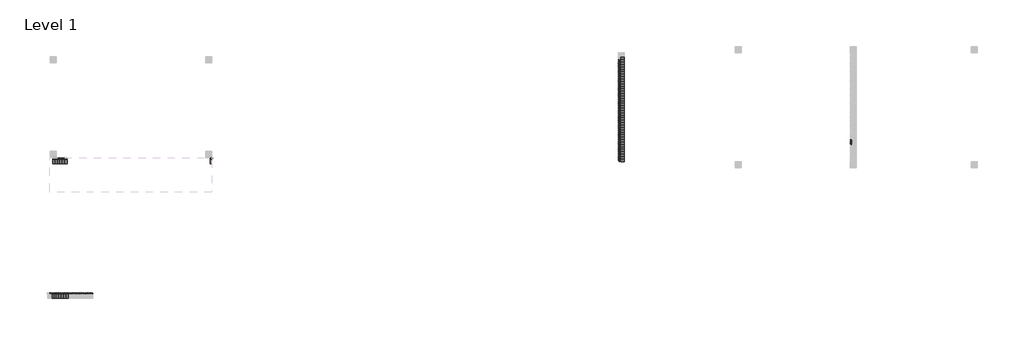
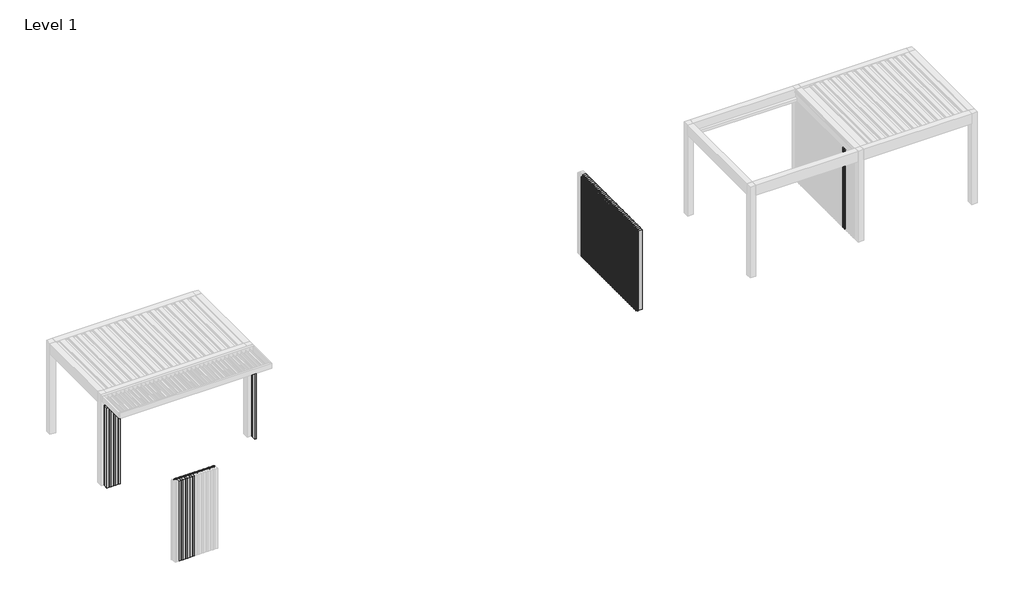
# One storey, part 3 of 80: 69 members, 57 plates.
"""IFC4 building model written with IfcOpenShell, lengths in millimetres."""

from ifc_helpers import new_model, si_unit, origin, origin_with_axes, place, context, project, spatial, polyline, outline, extrude, transform, mapped, element, save
from components import rectangular_mullion_2d27342c, rectangular_mullion_0795b381, rectangular_mullion_26476c5b, empty_system_panel_empty_ddf532ef, empty_system_panel_empty_0af53769, empty_system_panel_empty_b4a5b46b

model = new_model("IFC4")

# Units and contexts
model_context = context("Model", 3, world=origin())
ifc_project = project(units=[si_unit("LENGTHUNIT", "METRE", prefix="MILLI")], contexts=[model_context])

# Site, building, storey
site = spatial("IfcSite", under=ifc_project)
building = spatial("IfcBuilding", under=site)
storey = spatial("IfcBuildingStorey", under=building, Name="Level 1", Elevation=0.0)

# Members
placement = place(None, origin())
rectangular_mullion_shape = rectangular_mullion_2d27342c(model_context)
element("IfcMember", 1, ObjectType="Rectangular Mullion : Renson_Linarte_LA-E25-01 Zone B", at=placement, inside=storey, context=model_context, shape_type="MappedRepresentation", body=[
    mapped(rectangular_mullion_shape, transform((405935.5749429, -18477.8406315, 0.0), x_axis=(1.0, 0.0, 0.0), y_axis=(0.0, -1.0, 0.0), z_axis=(0.0, 0.0, -1.0))),
])
element("IfcMember", 2, ObjectType="Rectangular Mullion : Renson_Linarte_LA-E25-01 Zone B", at=placement, inside=storey, context=model_context, shape_type="MappedRepresentation", body=[
    mapped(rectangular_mullion_shape, transform((402335.5749429, -18477.8406315, 0.0), x_axis=(1.0, 0.0, 0.0), y_axis=(0.0, -1.0, 0.0), z_axis=(0.0, 0.0, -1.0))),
])
element("IfcMember", 3, ObjectType="Rectangular Mullion : Renson_Linarte_LA-E25-01 Zone B", at=placement, inside=storey, context=model_context, shape_type="MappedRepresentation", body=[
    mapped(rectangular_mullion_shape, transform((402275.5749429, -18477.8406315, 0.0), x_axis=(1.0, 0.0, 0.0), y_axis=(0.0, -1.0, 0.0), z_axis=(0.0, 0.0, -1.0))),
])
element("IfcMember", 4, ObjectType="Rectangular Mullion : Renson_Linarte_LA-E25-01 Zone B", at=placement, inside=storey, context=model_context, shape_type="MappedRepresentation", body=[
    mapped(rectangular_mullion_shape, transform((402215.5749429, -18477.8406315, 0.0), x_axis=(1.0, 0.0, 0.0), y_axis=(0.0, -1.0, 0.0), z_axis=(0.0, 0.0, -1.0))),
])
element("IfcMember", 5, ObjectType="Rectangular Mullion : Renson_Linarte_LA-E25-01 Zone B", at=placement, inside=storey, context=model_context, shape_type="MappedRepresentation", body=[
    mapped(rectangular_mullion_shape, transform((402155.5749429, -18477.8406315, 0.0), x_axis=(1.0, 0.0, 0.0), y_axis=(0.0, -1.0, 0.0), z_axis=(0.0, 0.0, -1.0))),
])
element("IfcMember", 6, ObjectType="Rectangular Mullion : Renson_Linarte_LA-E25-01 Zone B", at=placement, inside=storey, context=model_context, shape_type="MappedRepresentation", body=[
    mapped(rectangular_mullion_shape, transform((402095.5749429, -18477.8406315, 0.0), x_axis=(1.0, 0.0, 0.0), y_axis=(0.0, -1.0, 0.0), z_axis=(0.0, 0.0, -1.0))),
])
element("IfcMember", 7, ObjectType="Rectangular Mullion : Renson_Linarte_LA-E25-01 Zone B", at=placement, inside=storey, context=model_context, shape_type="MappedRepresentation", body=[
    mapped(rectangular_mullion_shape, transform((402035.5749429, -18477.8406315, 0.0), x_axis=(1.0, 0.0, 0.0), y_axis=(0.0, -1.0, 0.0), z_axis=(0.0, 0.0, -1.0))),
])
rectangular_mullion_2_shape = rectangular_mullion_0795b381(model_context)
element("IfcMember", 8, ObjectType="Rectangular Mullion : Renson_Linarte_LA-E25-01 Zone B", at=placement, inside=storey, context=model_context, shape_type="MappedRepresentation", body=[
    mapped(rectangular_mullion_2_shape, transform((403029.0900204, -21816.7045876, 0.0), x_axis=(-1.0, 0.0, 0.0), y_axis=(0.0, 1.0, 0.0), z_axis=(0.0, 0.0, -1.0))),
])
element("IfcMember", 9, ObjectType="Rectangular Mullion : Renson_Linarte_LA-E25-01 Zone B", at=placement, inside=storey, context=model_context, shape_type="MappedRepresentation", body=[
    mapped(rectangular_mullion_2_shape, transform((402969.0900204, -21816.7045876, 0.0), x_axis=(-1.0, 0.0, 0.0), y_axis=(0.0, 1.0, 0.0), z_axis=(0.0, 0.0, -1.0))),
])
element("IfcMember", 10, ObjectType="Rectangular Mullion : Renson_Linarte_LA-E25-01 Zone B", at=placement, inside=storey, context=model_context, shape_type="MappedRepresentation", body=[
    mapped(rectangular_mullion_2_shape, transform((402909.0900204, -21816.7045876, 0.0), x_axis=(-1.0, 0.0, 0.0), y_axis=(0.0, 1.0, 0.0), z_axis=(0.0, 0.0, -1.0))),
])
element("IfcMember", 11, ObjectType="Rectangular Mullion : Renson_Linarte_LA-E25-01 Zone B", at=placement, inside=storey, context=model_context, shape_type="MappedRepresentation", body=[
    mapped(rectangular_mullion_2_shape, transform((402849.0900204, -21816.7045876, 0.0), x_axis=(-1.0, 0.0, 0.0), y_axis=(0.0, 1.0, 0.0), z_axis=(0.0, 0.0, -1.0))),
])
element("IfcMember", 12, ObjectType="Rectangular Mullion : Renson_Linarte_LA-E25-01 Zone B", at=placement, inside=storey, context=model_context, shape_type="MappedRepresentation", body=[
    mapped(rectangular_mullion_2_shape, transform((402789.0900204, -21816.7045876, 0.0), x_axis=(-1.0, 0.0, 0.0), y_axis=(0.0, 1.0, 0.0), z_axis=(0.0, 0.0, -1.0))),
])
element("IfcMember", 13, ObjectType="Rectangular Mullion : Renson_Linarte_LA-E25-01 Zone B", at=placement, inside=storey, context=model_context, shape_type="MappedRepresentation", body=[
    mapped(rectangular_mullion_2_shape, transform((402729.0900204, -21816.7045876, 0.0), x_axis=(-1.0, 0.0, 0.0), y_axis=(0.0, 1.0, 0.0), z_axis=(0.0, 0.0, -1.0))),
])
element("IfcMember", 14, ObjectType="Rectangular Mullion : Renson_Linarte_LA-E25-01 Zone B", at=placement, inside=storey, context=model_context, shape_type="MappedRepresentation", body=[
    mapped(rectangular_mullion_2_shape, transform((402669.0900204, -21816.7045876, 0.0), x_axis=(-1.0, 0.0, 0.0), y_axis=(0.0, 1.0, 0.0), z_axis=(0.0, 0.0, -1.0))),
])
element("IfcMember", 15, ObjectType="Rectangular Mullion : Renson_Linarte_LA-E25-01 Zone B", at=placement, inside=storey, context=model_context, shape_type="MappedRepresentation", body=[
    mapped(rectangular_mullion_2_shape, transform((402609.0900204, -21816.7045876, 0.0), x_axis=(-1.0, 0.0, 0.0), y_axis=(0.0, 1.0, 0.0), z_axis=(0.0, 0.0, -1.0))),
])
element("IfcMember", 16, ObjectType="Rectangular Mullion : Renson_Linarte_LA-E25-01 Zone B", at=placement, inside=storey, context=model_context, shape_type="MappedRepresentation", body=[
    mapped(rectangular_mullion_2_shape, transform((402549.0900204, -21816.7045876, 0.0), x_axis=(-1.0, 0.0, 0.0), y_axis=(0.0, 1.0, 0.0), z_axis=(0.0, 0.0, -1.0))),
])
element("IfcMember", 17, ObjectType="Rectangular Mullion : Renson_Linarte_LA-E25-01 Zone B", at=placement, inside=storey, context=model_context, shape_type="MappedRepresentation", body=[
    mapped(rectangular_mullion_2_shape, transform((402489.0900204, -21816.7045876, 0.0), x_axis=(-1.0, 0.0, 0.0), y_axis=(0.0, 1.0, 0.0), z_axis=(0.0, 0.0, -1.0))),
])
element("IfcMember", 18, ObjectType="Rectangular Mullion : Renson_Linarte_LA-E25-01 Zone B", at=placement, inside=storey, context=model_context, shape_type="MappedRepresentation", body=[
    mapped(rectangular_mullion_2_shape, transform((402429.0900204, -21816.7045876, 0.0), x_axis=(-1.0, 0.0, 0.0), y_axis=(0.0, 1.0, 0.0), z_axis=(0.0, 0.0, -1.0))),
])
element("IfcMember", 19, ObjectType="Rectangular Mullion : Renson_Linarte_LA-E25-01 Zone B", at=placement, inside=storey, context=model_context, shape_type="MappedRepresentation", body=[
    mapped(rectangular_mullion_2_shape, transform((402369.0900204, -21816.7045876, 0.0), x_axis=(-1.0, 0.0, 0.0), y_axis=(0.0, 1.0, 0.0), z_axis=(0.0, 0.0, -1.0))),
])
element("IfcMember", 20, ObjectType="Rectangular Mullion : Renson_Linarte_LA-E25-01 Zone B", at=placement, inside=storey, context=model_context, shape_type="MappedRepresentation", body=[
    mapped(rectangular_mullion_2_shape, transform((402309.0900204, -21816.7045876, 0.0), x_axis=(-1.0, 0.0, 0.0), y_axis=(0.0, 1.0, 0.0), z_axis=(0.0, 0.0, -1.0))),
])
element("IfcMember", 21, ObjectType="Rectangular Mullion : Renson_Linarte_LA-E25-01 Zone B", at=placement, inside=storey, context=model_context, shape_type="MappedRepresentation", body=[
    mapped(rectangular_mullion_2_shape, transform((402249.0900204, -21816.7045876, 0.0), x_axis=(-1.0, 0.0, 0.0), y_axis=(0.0, 1.0, 0.0), z_axis=(0.0, 0.0, -1.0))),
])
element("IfcMember", 22, ObjectType="Rectangular Mullion : Renson_Linarte_LA-E25-01 Zone B", at=placement, inside=storey, context=model_context, shape_type="MappedRepresentation", body=[
    mapped(rectangular_mullion_2_shape, transform((402189.0900204, -21816.7045876, 0.0), x_axis=(-1.0, 0.0, 0.0), y_axis=(0.0, 1.0, 0.0), z_axis=(0.0, 0.0, -1.0))),
])
element("IfcMember", 23, ObjectType="Rectangular Mullion : Renson_Linarte_LA-E25-01 Zone B", at=placement, inside=storey, context=model_context, shape_type="MappedRepresentation", body=[
    mapped(rectangular_mullion_2_shape, transform((402129.0900204, -21816.7045876, 0.0), x_axis=(-1.0, 0.0, 0.0), y_axis=(0.0, 1.0, 0.0), z_axis=(0.0, 0.0, -1.0))),
])
element("IfcMember", 24, ObjectType="Rectangular Mullion : Renson_Linarte_LA-E25-01 Zone B", at=placement, inside=storey, context=model_context, shape_type="MappedRepresentation", body=[
    mapped(rectangular_mullion_2_shape, transform((402069.0900204, -21816.7045876, 0.0), x_axis=(-1.0, 0.0, 0.0), y_axis=(0.0, 1.0, 0.0), z_axis=(0.0, 0.0, -1.0))),
])
element("IfcMember", 25, ObjectType="Rectangular Mullion : Renson_Linarte_LA-E25-01 Zone B", at=placement, inside=storey, context=model_context, shape_type="MappedRepresentation", body=[
    mapped(rectangular_mullion_2_shape, transform((402009.0900204, -21816.7045876, 0.0), x_axis=(-1.0, 0.0, 0.0), y_axis=(0.0, 1.0, 0.0), z_axis=(0.0, 0.0, -1.0))),
])
rectangular_mullion_3_shape = rectangular_mullion_26476c5b(model_context)
element("IfcMember", 26, ObjectType="Rectangular Mullion : Renson_Linarte_LA-E25-01", at=placement, inside=storey, context=model_context, shape_type="MappedRepresentation", body=[
    mapped(rectangular_mullion_3_shape, transform((416146.3354185, -16477.8406318, 0.0), x_axis=(0.0, -1.0, 0.0), y_axis=(-1.0, 0.0, 0.0), z_axis=(0.0, 0.0, -1.0))),
])
element("IfcMember", 27, ObjectType="Rectangular Mullion : Renson_Linarte_LA-E25-01", at=placement, inside=storey, context=model_context, shape_type="MappedRepresentation", body=[
    mapped(rectangular_mullion_3_shape, transform((416146.3354185, -16537.8406318, 0.0), x_axis=(0.0, -1.0, 0.0), y_axis=(-1.0, 0.0, 0.0), z_axis=(0.0, 0.0, -1.0))),
])
element("IfcMember", 28, ObjectType="Rectangular Mullion : Renson_Linarte_LA-E25-01", at=placement, inside=storey, context=model_context, shape_type="MappedRepresentation", body=[
    mapped(rectangular_mullion_3_shape, transform((416146.3354185, -16597.8406318, 0.0), x_axis=(0.0, -1.0, 0.0), y_axis=(-1.0, 0.0, 0.0), z_axis=(0.0, 0.0, -1.0))),
])
element("IfcMember", 29, ObjectType="Rectangular Mullion : Renson_Linarte_LA-E25-01", at=placement, inside=storey, context=model_context, shape_type="MappedRepresentation", body=[
    mapped(rectangular_mullion_3_shape, transform((416146.3354185, -16657.8406318, 0.0), x_axis=(0.0, -1.0, 0.0), y_axis=(-1.0, 0.0, 0.0), z_axis=(0.0, 0.0, -1.0))),
])
element("IfcMember", 30, ObjectType="Rectangular Mullion : Renson_Linarte_LA-E25-01", at=placement, inside=storey, context=model_context, shape_type="MappedRepresentation", body=[
    mapped(rectangular_mullion_3_shape, transform((416146.3354185, -16717.8406318, 0.0), x_axis=(0.0, -1.0, 0.0), y_axis=(-1.0, 0.0, 0.0), z_axis=(0.0, 0.0, -1.0))),
])
element("IfcMember", 31, ObjectType="Rectangular Mullion : Renson_Linarte_LA-E25-01", at=placement, inside=storey, context=model_context, shape_type="MappedRepresentation", body=[
    mapped(rectangular_mullion_3_shape, transform((416146.3354185, -16777.8406318, 0.0), x_axis=(0.0, -1.0, 0.0), y_axis=(-1.0, 0.0, 0.0), z_axis=(0.0, 0.0, -1.0))),
])
element("IfcMember", 32, ObjectType="Rectangular Mullion : Renson_Linarte_LA-E25-01", at=placement, inside=storey, context=model_context, shape_type="MappedRepresentation", body=[
    mapped(rectangular_mullion_3_shape, transform((416146.3354185, -16837.8406318, 0.0), x_axis=(0.0, -1.0, 0.0), y_axis=(-1.0, 0.0, 0.0), z_axis=(0.0, 0.0, -1.0))),
])
element("IfcMember", 33, ObjectType="Rectangular Mullion : Renson_Linarte_LA-E25-01", at=placement, inside=storey, context=model_context, shape_type="MappedRepresentation", body=[
    mapped(rectangular_mullion_3_shape, transform((416146.3354185, -16897.8406318, 0.0), x_axis=(0.0, -1.0, 0.0), y_axis=(-1.0, 0.0, 0.0), z_axis=(0.0, 0.0, -1.0))),
])
element("IfcMember", 34, ObjectType="Rectangular Mullion : Renson_Linarte_LA-E25-01", at=placement, inside=storey, context=model_context, shape_type="MappedRepresentation", body=[
    mapped(rectangular_mullion_3_shape, transform((416146.3354185, -16957.8406318, 0.0), x_axis=(0.0, -1.0, 0.0), y_axis=(-1.0, 0.0, 0.0), z_axis=(0.0, 0.0, -1.0))),
])
element("IfcMember", 35, ObjectType="Rectangular Mullion : Renson_Linarte_LA-E25-01", at=placement, inside=storey, context=model_context, shape_type="MappedRepresentation", body=[
    mapped(rectangular_mullion_3_shape, transform((416146.3354185, -17017.8406318, 0.0), x_axis=(0.0, -1.0, 0.0), y_axis=(-1.0, 0.0, 0.0), z_axis=(0.0, 0.0, -1.0))),
])
element("IfcMember", 36, ObjectType="Rectangular Mullion : Renson_Linarte_LA-E25-01", at=placement, inside=storey, context=model_context, shape_type="MappedRepresentation", body=[
    mapped(rectangular_mullion_3_shape, transform((416146.3354185, -17077.8406318, 0.0), x_axis=(0.0, -1.0, 0.0), y_axis=(-1.0, 0.0, 0.0), z_axis=(0.0, 0.0, -1.0))),
])
element("IfcMember", 37, ObjectType="Rectangular Mullion : Renson_Linarte_LA-E25-01", at=placement, inside=storey, context=model_context, shape_type="MappedRepresentation", body=[
    mapped(rectangular_mullion_3_shape, transform((416146.3354185, -17137.8406318, 0.0), x_axis=(0.0, -1.0, 0.0), y_axis=(-1.0, 0.0, 0.0), z_axis=(0.0, 0.0, -1.0))),
])
element("IfcMember", 38, ObjectType="Rectangular Mullion : Renson_Linarte_LA-E25-01", at=placement, inside=storey, context=model_context, shape_type="MappedRepresentation", body=[
    mapped(rectangular_mullion_3_shape, transform((416146.3354185, -17197.8406318, 0.0), x_axis=(0.0, -1.0, 0.0), y_axis=(-1.0, 0.0, 0.0), z_axis=(0.0, 0.0, -1.0))),
])
element("IfcMember", 39, ObjectType="Rectangular Mullion : Renson_Linarte_LA-E25-01", at=placement, inside=storey, context=model_context, shape_type="MappedRepresentation", body=[
    mapped(rectangular_mullion_3_shape, transform((416146.3354185, -17257.8406318, 0.0), x_axis=(0.0, -1.0, 0.0), y_axis=(-1.0, 0.0, 0.0), z_axis=(0.0, 0.0, -1.0))),
])
element("IfcMember", 40, ObjectType="Rectangular Mullion : Renson_Linarte_LA-E25-01", at=placement, inside=storey, context=model_context, shape_type="MappedRepresentation", body=[
    mapped(rectangular_mullion_3_shape, transform((416146.3354185, -17317.8406318, 0.0), x_axis=(0.0, -1.0, 0.0), y_axis=(-1.0, 0.0, 0.0), z_axis=(0.0, 0.0, -1.0))),
])
element("IfcMember", 41, ObjectType="Rectangular Mullion : Renson_Linarte_LA-E25-01", at=placement, inside=storey, context=model_context, shape_type="MappedRepresentation", body=[
    mapped(rectangular_mullion_3_shape, transform((416146.3354185, -17377.8406318, 0.0), x_axis=(0.0, -1.0, 0.0), y_axis=(-1.0, 0.0, 0.0), z_axis=(0.0, 0.0, -1.0))),
])
element("IfcMember", 42, ObjectType="Rectangular Mullion : Renson_Linarte_LA-E25-01", at=placement, inside=storey, context=model_context, shape_type="MappedRepresentation", body=[
    mapped(rectangular_mullion_3_shape, transform((416146.3354185, -17437.8406318, 0.0), x_axis=(0.0, -1.0, 0.0), y_axis=(-1.0, 0.0, 0.0), z_axis=(0.0, 0.0, -1.0))),
])
element("IfcMember", 43, ObjectType="Rectangular Mullion : Renson_Linarte_LA-E25-01", at=placement, inside=storey, context=model_context, shape_type="MappedRepresentation", body=[
    mapped(rectangular_mullion_3_shape, transform((416146.3354185, -17497.8406318, 0.0), x_axis=(0.0, -1.0, 0.0), y_axis=(-1.0, 0.0, 0.0), z_axis=(0.0, 0.0, -1.0))),
])
element("IfcMember", 44, ObjectType="Rectangular Mullion : Renson_Linarte_LA-E25-01", at=placement, inside=storey, context=model_context, shape_type="MappedRepresentation", body=[
    mapped(rectangular_mullion_3_shape, transform((416146.3354185, -17557.8406318, 0.0), x_axis=(0.0, -1.0, 0.0), y_axis=(-1.0, 0.0, 0.0), z_axis=(0.0, 0.0, -1.0))),
])
element("IfcMember", 45, ObjectType="Rectangular Mullion : Renson_Linarte_LA-E25-01", at=placement, inside=storey, context=model_context, shape_type="MappedRepresentation", body=[
    mapped(rectangular_mullion_3_shape, transform((416146.3354185, -17617.8406318, 0.0), x_axis=(0.0, -1.0, 0.0), y_axis=(-1.0, 0.0, 0.0), z_axis=(0.0, 0.0, -1.0))),
])
element("IfcMember", 46, ObjectType="Rectangular Mullion : Renson_Linarte_LA-E25-01", at=placement, inside=storey, context=model_context, shape_type="MappedRepresentation", body=[
    mapped(rectangular_mullion_3_shape, transform((416146.3354185, -17677.8406318, 0.0), x_axis=(0.0, -1.0, 0.0), y_axis=(-1.0, 0.0, 0.0), z_axis=(0.0, 0.0, -1.0))),
])
element("IfcMember", 47, ObjectType="Rectangular Mullion : Renson_Linarte_LA-E25-01", at=placement, inside=storey, context=model_context, shape_type="MappedRepresentation", body=[
    mapped(rectangular_mullion_3_shape, transform((416146.3354185, -17737.8406318, 0.0), x_axis=(0.0, -1.0, 0.0), y_axis=(-1.0, 0.0, 0.0), z_axis=(0.0, 0.0, -1.0))),
])
element("IfcMember", 48, ObjectType="Rectangular Mullion : Renson_Linarte_LA-E25-01", at=placement, inside=storey, context=model_context, shape_type="MappedRepresentation", body=[
    mapped(rectangular_mullion_3_shape, transform((416146.3354185, -17797.8406318, 0.0), x_axis=(0.0, -1.0, 0.0), y_axis=(-1.0, 0.0, 0.0), z_axis=(0.0, 0.0, -1.0))),
])
element("IfcMember", 49, ObjectType="Rectangular Mullion : Renson_Linarte_LA-E25-01", at=placement, inside=storey, context=model_context, shape_type="MappedRepresentation", body=[
    mapped(rectangular_mullion_3_shape, transform((416146.3354185, -17857.8406318, 0.0), x_axis=(0.0, -1.0, 0.0), y_axis=(-1.0, 0.0, 0.0), z_axis=(0.0, 0.0, -1.0))),
])
element("IfcMember", 50, ObjectType="Rectangular Mullion : Renson_Linarte_LA-E25-01", at=placement, inside=storey, context=model_context, shape_type="MappedRepresentation", body=[
    mapped(rectangular_mullion_3_shape, transform((416146.3354185, -17917.8406318, 0.0), x_axis=(0.0, -1.0, 0.0), y_axis=(-1.0, 0.0, 0.0), z_axis=(0.0, 0.0, -1.0))),
])
element("IfcMember", 51, ObjectType="Rectangular Mullion : Renson_Linarte_LA-E25-01", at=placement, inside=storey, context=model_context, shape_type="MappedRepresentation", body=[
    mapped(rectangular_mullion_3_shape, transform((416146.3354185, -17977.8406318, 0.0), x_axis=(0.0, -1.0, 0.0), y_axis=(-1.0, 0.0, 0.0), z_axis=(0.0, 0.0, -1.0))),
])
element("IfcMember", 52, ObjectType="Rectangular Mullion : Renson_Linarte_LA-E25-01", at=placement, inside=storey, context=model_context, shape_type="MappedRepresentation", body=[
    mapped(rectangular_mullion_3_shape, transform((416146.3354185, -18037.8406318, 0.0), x_axis=(0.0, -1.0, 0.0), y_axis=(-1.0, 0.0, 0.0), z_axis=(0.0, 0.0, -1.0))),
])
element("IfcMember", 53, ObjectType="Rectangular Mullion : Renson_Linarte_LA-E25-01", at=placement, inside=storey, context=model_context, shape_type="MappedRepresentation", body=[
    mapped(rectangular_mullion_3_shape, transform((416146.3354185, -18097.8406318, 0.0), x_axis=(0.0, -1.0, 0.0), y_axis=(-1.0, 0.0, 0.0), z_axis=(0.0, 0.0, -1.0))),
])
element("IfcMember", 54, ObjectType="Rectangular Mullion : Renson_Linarte_LA-E25-01", at=placement, inside=storey, context=model_context, shape_type="MappedRepresentation", body=[
    mapped(rectangular_mullion_3_shape, transform((416146.3354185, -18157.8406318, 0.0), x_axis=(0.0, -1.0, 0.0), y_axis=(-1.0, 0.0, 0.0), z_axis=(0.0, 0.0, -1.0))),
])
element("IfcMember", 55, ObjectType="Rectangular Mullion : Renson_Linarte_LA-E25-01", at=placement, inside=storey, context=model_context, shape_type="MappedRepresentation", body=[
    mapped(rectangular_mullion_3_shape, transform((416146.3354185, -18217.8406318, 0.0), x_axis=(0.0, -1.0, 0.0), y_axis=(-1.0, 0.0, 0.0), z_axis=(0.0, 0.0, -1.0))),
])
element("IfcMember", 56, ObjectType="Rectangular Mullion : Renson_Linarte_LA-E25-01", at=placement, inside=storey, context=model_context, shape_type="MappedRepresentation", body=[
    mapped(rectangular_mullion_3_shape, transform((416146.3354185, -18277.8406318, 0.0), x_axis=(0.0, -1.0, 0.0), y_axis=(-1.0, 0.0, 0.0), z_axis=(0.0, 0.0, -1.0))),
])
element("IfcMember", 57, ObjectType="Rectangular Mullion : Renson_Linarte_LA-E25-01", at=placement, inside=storey, context=model_context, shape_type="MappedRepresentation", body=[
    mapped(rectangular_mullion_3_shape, transform((416146.3354185, -18337.8406318, 0.0), x_axis=(0.0, -1.0, 0.0), y_axis=(-1.0, 0.0, 0.0), z_axis=(0.0, 0.0, -1.0))),
])
element("IfcMember", 58, ObjectType="Rectangular Mullion : Renson_Linarte_LA-E25-01", at=placement, inside=storey, context=model_context, shape_type="MappedRepresentation", body=[
    mapped(rectangular_mullion_3_shape, transform((416146.3354185, -18397.8406318, 0.0), x_axis=(0.0, -1.0, 0.0), y_axis=(-1.0, 0.0, 0.0), z_axis=(0.0, 0.0, -1.0))),
])
element("IfcMember", 59, ObjectType="Rectangular Mullion : Renson_Linarte_LA-E25-01", at=placement, inside=storey, context=model_context, shape_type="MappedRepresentation", body=[
    mapped(rectangular_mullion_3_shape, transform((416146.3354185, -18457.8406318, 0.0), x_axis=(0.0, -1.0, 0.0), y_axis=(-1.0, 0.0, 0.0), z_axis=(0.0, 0.0, -1.0))),
])
element("IfcMember", 60, ObjectType="Rectangular Mullion : Renson_Linarte_LA-E25-01", at=placement, inside=storey, context=model_context, shape_type="MappedRepresentation", body=[
    mapped(rectangular_mullion_3_shape, transform((416146.3354185, -18517.8406318, 0.0), x_axis=(0.0, -1.0, 0.0), y_axis=(-1.0, 0.0, 0.0), z_axis=(0.0, 0.0, -1.0))),
])
element("IfcMember", 61, ObjectType="Rectangular Mullion : Renson_Linarte_LA-E25-01", at=placement, inside=storey, context=model_context, shape_type="MappedRepresentation", body=[
    mapped(rectangular_mullion_3_shape, transform((421900.5749426, -18037.8406318, 0.0), x_axis=(0.0, -1.0, 0.0), y_axis=(-1.0, 0.0, 0.0), z_axis=(0.0, 0.0, -1.0))),
])
element("IfcMember", 62, ObjectType="Rectangular Mullion : Renson_Linarte_LA-E25-01", at=placement, inside=storey, context=model_context, shape_type="MappedRepresentation", body=[
    mapped(rectangular_mullion_3_shape, transform((421900.5749426, -18097.8406318, 0.0), x_axis=(0.0, -1.0, 0.0), y_axis=(-1.0, 0.0, 0.0), z_axis=(0.0, 0.0, -1.0))),
])
element("IfcMember", 63, ObjectType="Rectangular Mullion : Renson_Linarte_LA-E25-01", at=placement, inside=storey, context=model_context, shape_type="MappedRepresentation", body=[
    mapped(rectangular_mullion_3_shape, transform((416146.3354185, -16417.8406318, 0.0), x_axis=(0.0, -1.0, 0.0), y_axis=(-1.0, 0.0, 0.0), z_axis=(0.0, 0.0, -1.0))),
])
element("IfcMember", 64, ObjectType="Rectangular Mullion : Renson_Linarte_LA-E25-01", at=placement, inside=storey, context=model_context, shape_type="MappedRepresentation", body=[
    mapped(rectangular_mullion_3_shape, transform((416146.3354185, -16357.8406318, 0.0), x_axis=(0.0, -1.0, 0.0), y_axis=(-1.0, 0.0, 0.0), z_axis=(0.0, 0.0, -1.0))),
])
element("IfcMember", 65, ObjectType="Rectangular Mullion : Renson_Linarte_LA-E25-01", at=placement, inside=storey, context=model_context, shape_type="MappedRepresentation", body=[
    mapped(rectangular_mullion_3_shape, transform((416146.3354185, -16297.8406318, 0.0), x_axis=(0.0, -1.0, 0.0), y_axis=(-1.0, 0.0, 0.0), z_axis=(0.0, 0.0, -1.0))),
])
element("IfcMember", 66, ObjectType="Rectangular Mullion : Renson_Linarte_LA-E25-01", at=placement, inside=storey, context=model_context, shape_type="MappedRepresentation", body=[
    mapped(rectangular_mullion_3_shape, transform((416146.3354185, -16237.8406318, 0.0), x_axis=(0.0, -1.0, 0.0), y_axis=(-1.0, 0.0, 0.0), z_axis=(0.0, 0.0, -1.0))),
])
element("IfcMember", 67, ObjectType="Rectangular Mullion : Renson_Linarte_LA-E25-01", at=placement, inside=storey, context=model_context, shape_type="MappedRepresentation", body=[
    mapped(rectangular_mullion_3_shape, transform((416146.3354185, -16177.8406318, 0.0), x_axis=(0.0, -1.0, 0.0), y_axis=(-1.0, 0.0, 0.0), z_axis=(0.0, 0.0, -1.0))),
])
element("IfcMember", 68, ObjectType="Rectangular Mullion : Renson_Linarte_LA-E25-01", at=placement, inside=storey, context=model_context, shape_type="MappedRepresentation", body=[
    mapped(rectangular_mullion_3_shape, transform((416146.3354185, -16117.8406318, 0.0), x_axis=(0.0, -1.0, 0.0), y_axis=(-1.0, 0.0, 0.0), z_axis=(0.0, 0.0, -1.0))),
])
element("IfcMember", 69, ObjectType="Rectangular Mullion : Renson_Linarte_LA-E25-01", at=placement, inside=storey, context=model_context, shape_type="MappedRepresentation", body=[
    mapped(rectangular_mullion_3_shape, transform((416146.3354185, -16057.8406318, 0.0), x_axis=(0.0, -1.0, 0.0), y_axis=(-1.0, 0.0, 0.0), z_axis=(0.0, 0.0, -1.0))),
])

# Plates
element("IfcPlate", 70, ObjectType="Base - 88mm", at=placement, inside=storey, context=model_context, shape_type="SweptSolid", body=[
    extrude(outline(polyline([(416102.3354185, -18577.8406315), (416102.3354185, -18517.8406318), (416190.3354185, -18517.8406318), (416190.3354185, -18577.8406315), (416102.3354185, -18577.8406315)])), origin_with_axes(), (0.0, 0.0, 1.0), 2225.0),
])
element("IfcPlate", 71, ObjectType="Base - 88mm", at=placement, inside=storey, context=model_context, shape_type="SweptSolid", body=[
    extrude(outline(polyline([(416102.3354185, -18517.8406318), (416102.3354185, -18457.8406318), (416190.3354185, -18457.8406318), (416190.3354185, -18517.8406318), (416102.3354185, -18517.8406318)])), origin_with_axes(), (0.0, 0.0, 1.0), 2225.0),
])
element("IfcPlate", 72, ObjectType="Base - 88mm", at=placement, inside=storey, context=model_context, shape_type="SweptSolid", body=[
    extrude(outline(polyline([(416102.3354185, -18457.8406318), (416102.3354185, -18397.8406318), (416190.3354185, -18397.8406318), (416190.3354185, -18457.8406318), (416102.3354185, -18457.8406318)])), origin_with_axes(), (0.0, 0.0, 1.0), 2225.0),
])
element("IfcPlate", 73, ObjectType="Base - 88mm", at=placement, inside=storey, context=model_context, shape_type="SweptSolid", body=[
    extrude(outline(polyline([(416102.3354185, -18397.8406318), (416102.3354185, -18337.8406318), (416190.3354185, -18337.8406318), (416190.3354185, -18397.8406318), (416102.3354185, -18397.8406318)])), origin_with_axes(), (0.0, 0.0, 1.0), 2225.0),
])
element("IfcPlate", 74, ObjectType="Base - 88mm", at=placement, inside=storey, context=model_context, shape_type="SweptSolid", body=[
    extrude(outline(polyline([(416102.3354185, -18337.8406318), (416102.3354185, -18277.8406318), (416190.3354185, -18277.8406318), (416190.3354185, -18337.8406318), (416102.3354185, -18337.8406318)])), origin_with_axes(), (0.0, 0.0, 1.0), 2225.0),
])
element("IfcPlate", 75, ObjectType="Base - 88mm", at=placement, inside=storey, context=model_context, shape_type="SweptSolid", body=[
    extrude(outline(polyline([(416102.3354185, -18277.8406318), (416102.3354185, -18217.8406318), (416190.3354185, -18217.8406318), (416190.3354185, -18277.8406318), (416102.3354185, -18277.8406318)])), origin_with_axes(), (0.0, 0.0, 1.0), 2225.0),
])
element("IfcPlate", 76, ObjectType="Base - 88mm", at=placement, inside=storey, context=model_context, shape_type="SweptSolid", body=[
    extrude(outline(polyline([(416102.3354185, -18217.8406318), (416102.3354185, -18157.8406318), (416190.3354185, -18157.8406318), (416190.3354185, -18217.8406318), (416102.3354185, -18217.8406318)])), origin_with_axes(), (0.0, 0.0, 1.0), 2225.0),
])
element("IfcPlate", 77, ObjectType="Base - 88mm", at=placement, inside=storey, context=model_context, shape_type="SweptSolid", body=[
    extrude(outline(polyline([(416102.3354185, -18157.8406318), (416102.3354185, -18097.8406318), (416190.3354185, -18097.8406318), (416190.3354185, -18157.8406318), (416102.3354185, -18157.8406318)])), origin_with_axes(), (0.0, 0.0, 1.0), 2225.0),
])
element("IfcPlate", 78, ObjectType="Base - 88mm", at=placement, inside=storey, context=model_context, shape_type="SweptSolid", body=[
    extrude(outline(polyline([(416102.3354185, -18097.8406318), (416102.3354185, -18037.8406318), (416190.3354185, -18037.8406318), (416190.3354185, -18097.8406318), (416102.3354185, -18097.8406318)])), origin_with_axes(), (0.0, 0.0, 1.0), 2225.0),
])
element("IfcPlate", 79, ObjectType="Base - 88mm", at=placement, inside=storey, context=model_context, shape_type="SweptSolid", body=[
    extrude(outline(polyline([(416102.3354185, -18037.8406318), (416102.3354185, -17977.8406318), (416190.3354185, -17977.8406318), (416190.3354185, -18037.8406318), (416102.3354185, -18037.8406318)])), origin_with_axes(), (0.0, 0.0, 1.0), 2225.0),
])
element("IfcPlate", 80, ObjectType="Base - 88mm", at=placement, inside=storey, context=model_context, shape_type="SweptSolid", body=[
    extrude(outline(polyline([(416102.3354185, -17977.8406318), (416102.3354185, -17917.8406318), (416190.3354185, -17917.8406318), (416190.3354185, -17977.8406318), (416102.3354185, -17977.8406318)])), origin_with_axes(), (0.0, 0.0, 1.0), 2225.0),
])
element("IfcPlate", 81, ObjectType="Base - 88mm", at=placement, inside=storey, context=model_context, shape_type="SweptSolid", body=[
    extrude(outline(polyline([(416102.3354185, -17917.8406318), (416102.3354185, -17857.8406318), (416190.3354185, -17857.8406318), (416190.3354185, -17917.8406318), (416102.3354185, -17917.8406318)])), origin_with_axes(), (0.0, 0.0, 1.0), 2225.0),
])
element("IfcPlate", 82, ObjectType="Base - 88mm", at=placement, inside=storey, context=model_context, shape_type="SweptSolid", body=[
    extrude(outline(polyline([(416102.3354185, -17857.8406318), (416102.3354185, -17797.8406318), (416190.3354185, -17797.8406318), (416190.3354185, -17857.8406318), (416102.3354185, -17857.8406318)])), origin_with_axes(), (0.0, 0.0, 1.0), 2225.0),
])
element("IfcPlate", 83, ObjectType="Base - 88mm", at=placement, inside=storey, context=model_context, shape_type="SweptSolid", body=[
    extrude(outline(polyline([(416102.3354185, -17797.8406318), (416102.3354185, -17737.8406318), (416190.3354185, -17737.8406318), (416190.3354185, -17797.8406318), (416102.3354185, -17797.8406318)])), origin_with_axes(), (0.0, 0.0, 1.0), 2225.0),
])
element("IfcPlate", 84, ObjectType="Base - 88mm", at=placement, inside=storey, context=model_context, shape_type="SweptSolid", body=[
    extrude(outline(polyline([(416102.3354185, -17737.8406318), (416102.3354185, -17677.8406318), (416190.3354185, -17677.8406318), (416190.3354185, -17737.8406318), (416102.3354185, -17737.8406318)])), origin_with_axes(), (0.0, 0.0, 1.0), 2225.0),
])
element("IfcPlate", 85, ObjectType="Base - 88mm", at=placement, inside=storey, context=model_context, shape_type="SweptSolid", body=[
    extrude(outline(polyline([(416102.3354185, -17677.8406318), (416102.3354185, -17617.8406318), (416190.3354185, -17617.8406318), (416190.3354185, -17677.8406318), (416102.3354185, -17677.8406318)])), origin_with_axes(), (0.0, 0.0, 1.0), 2225.0),
])
element("IfcPlate", 86, ObjectType="Base - 88mm", at=placement, inside=storey, context=model_context, shape_type="SweptSolid", body=[
    extrude(outline(polyline([(416102.3354185, -17617.8406318), (416102.3354185, -17557.8406318), (416190.3354185, -17557.8406318), (416190.3354185, -17617.8406318), (416102.3354185, -17617.8406318)])), origin_with_axes(), (0.0, 0.0, 1.0), 2225.0),
])
element("IfcPlate", 87, ObjectType="Base - 88mm", at=placement, inside=storey, context=model_context, shape_type="SweptSolid", body=[
    extrude(outline(polyline([(416102.3354185, -17557.8406318), (416102.3354185, -17497.8406318), (416190.3354185, -17497.8406318), (416190.3354185, -17557.8406318), (416102.3354185, -17557.8406318)])), origin_with_axes(), (0.0, 0.0, 1.0), 2225.0),
])
element("IfcPlate", 88, ObjectType="Base - 88mm", at=placement, inside=storey, context=model_context, shape_type="SweptSolid", body=[
    extrude(outline(polyline([(416102.3354185, -17497.8406318), (416102.3354185, -17437.8406318), (416190.3354185, -17437.8406318), (416190.3354185, -17497.8406318), (416102.3354185, -17497.8406318)])), origin_with_axes(), (0.0, 0.0, 1.0), 2225.0),
])
element("IfcPlate", 89, ObjectType="Base - 88mm", at=placement, inside=storey, context=model_context, shape_type="SweptSolid", body=[
    extrude(outline(polyline([(416102.3354185, -17437.8406318), (416102.3354185, -17377.8406318), (416190.3354185, -17377.8406318), (416190.3354185, -17437.8406318), (416102.3354185, -17437.8406318)])), origin_with_axes(), (0.0, 0.0, 1.0), 2225.0),
])
element("IfcPlate", 90, ObjectType="Base - 88mm", at=placement, inside=storey, context=model_context, shape_type="SweptSolid", body=[
    extrude(outline(polyline([(416102.3354185, -17377.8406318), (416102.3354185, -17317.8406318), (416190.3354185, -17317.8406318), (416190.3354185, -17377.8406318), (416102.3354185, -17377.8406318)])), origin_with_axes(), (0.0, 0.0, 1.0), 2225.0),
])
element("IfcPlate", 91, ObjectType="Base - 88mm", at=placement, inside=storey, context=model_context, shape_type="SweptSolid", body=[
    extrude(outline(polyline([(416102.3354185, -17317.8406318), (416102.3354185, -17257.8406318), (416190.3354185, -17257.8406318), (416190.3354185, -17317.8406318), (416102.3354185, -17317.8406318)])), origin_with_axes(), (0.0, 0.0, 1.0), 2225.0),
])
element("IfcPlate", 92, ObjectType="Base - 88mm", at=placement, inside=storey, context=model_context, shape_type="SweptSolid", body=[
    extrude(outline(polyline([(416102.3354185, -17257.8406318), (416102.3354185, -17197.8406318), (416190.3354185, -17197.8406318), (416190.3354185, -17257.8406318), (416102.3354185, -17257.8406318)])), origin_with_axes(), (0.0, 0.0, 1.0), 2225.0),
])
element("IfcPlate", 93, ObjectType="Base - 88mm", at=placement, inside=storey, context=model_context, shape_type="SweptSolid", body=[
    extrude(outline(polyline([(416102.3354185, -17197.8406318), (416102.3354185, -17137.8406318), (416190.3354185, -17137.8406318), (416190.3354185, -17197.8406318), (416102.3354185, -17197.8406318)])), origin_with_axes(), (0.0, 0.0, 1.0), 2225.0),
])
element("IfcPlate", 94, ObjectType="Base - 88mm", at=placement, inside=storey, context=model_context, shape_type="SweptSolid", body=[
    extrude(outline(polyline([(416102.3354185, -17137.8406318), (416102.3354185, -17077.8406318), (416190.3354185, -17077.8406318), (416190.3354185, -17137.8406318), (416102.3354185, -17137.8406318)])), origin_with_axes(), (0.0, 0.0, 1.0), 2225.0),
])
element("IfcPlate", 95, ObjectType="Base - 88mm", at=placement, inside=storey, context=model_context, shape_type="SweptSolid", body=[
    extrude(outline(polyline([(416102.3354185, -17077.8406318), (416102.3354185, -17017.8406318), (416190.3354185, -17017.8406318), (416190.3354185, -17077.8406318), (416102.3354185, -17077.8406318)])), origin_with_axes(), (0.0, 0.0, 1.0), 2225.0),
])
element("IfcPlate", 96, ObjectType="Base - 88mm", at=placement, inside=storey, context=model_context, shape_type="SweptSolid", body=[
    extrude(outline(polyline([(416102.3354185, -17017.8406318), (416102.3354185, -16957.8406318), (416190.3354185, -16957.8406318), (416190.3354185, -17017.8406318), (416102.3354185, -17017.8406318)])), origin_with_axes(), (0.0, 0.0, 1.0), 2225.0),
])
element("IfcPlate", 97, ObjectType="Base - 88mm", at=placement, inside=storey, context=model_context, shape_type="SweptSolid", body=[
    extrude(outline(polyline([(416102.3354185, -16957.8406318), (416102.3354185, -16897.8406318), (416190.3354185, -16897.8406318), (416190.3354185, -16957.8406318), (416102.3354185, -16957.8406318)])), origin_with_axes(), (0.0, 0.0, 1.0), 2225.0),
])
element("IfcPlate", 98, ObjectType="Base - 88mm", at=placement, inside=storey, context=model_context, shape_type="SweptSolid", body=[
    extrude(outline(polyline([(416102.3354185, -16897.8406318), (416102.3354185, -16837.8406318), (416190.3354185, -16837.8406318), (416190.3354185, -16897.8406318), (416102.3354185, -16897.8406318)])), origin_with_axes(), (0.0, 0.0, 1.0), 2225.0),
])
element("IfcPlate", 99, ObjectType="Base - 88mm", at=placement, inside=storey, context=model_context, shape_type="SweptSolid", body=[
    extrude(outline(polyline([(416102.3354185, -16837.8406318), (416102.3354185, -16777.8406318), (416190.3354185, -16777.8406318), (416190.3354185, -16837.8406318), (416102.3354185, -16837.8406318)])), origin_with_axes(), (0.0, 0.0, 1.0), 2225.0),
])
element("IfcPlate", 100, ObjectType="Base - 88mm", at=placement, inside=storey, context=model_context, shape_type="SweptSolid", body=[
    extrude(outline(polyline([(416102.3354185, -16777.8406318), (416102.3354185, -16717.8406318), (416190.3354185, -16717.8406318), (416190.3354185, -16777.8406318), (416102.3354185, -16777.8406318)])), origin_with_axes(), (0.0, 0.0, 1.0), 2225.0),
])
element("IfcPlate", 101, ObjectType="Base - 88mm", at=placement, inside=storey, context=model_context, shape_type="SweptSolid", body=[
    extrude(outline(polyline([(416102.3354185, -16717.8406318), (416102.3354185, -16657.8406318), (416190.3354185, -16657.8406318), (416190.3354185, -16717.8406318), (416102.3354185, -16717.8406318)])), origin_with_axes(), (0.0, 0.0, 1.0), 2225.0),
])
element("IfcPlate", 102, ObjectType="Base - 88mm", at=placement, inside=storey, context=model_context, shape_type="SweptSolid", body=[
    extrude(outline(polyline([(416102.3354185, -16657.8406318), (416102.3354185, -16597.8406318), (416190.3354185, -16597.8406318), (416190.3354185, -16657.8406318), (416102.3354185, -16657.8406318)])), origin_with_axes(), (0.0, 0.0, 1.0), 2225.0),
])
element("IfcPlate", 103, ObjectType="Base - 88mm", at=placement, inside=storey, context=model_context, shape_type="SweptSolid", body=[
    extrude(outline(polyline([(416102.3354185, -16597.8406318), (416102.3354185, -16537.8406318), (416190.3354185, -16537.8406318), (416190.3354185, -16597.8406318), (416102.3354185, -16597.8406318)])), origin_with_axes(), (0.0, 0.0, 1.0), 2225.0),
])
element("IfcPlate", 104, ObjectType="Base - 88mm", at=placement, inside=storey, context=model_context, shape_type="SweptSolid", body=[
    extrude(outline(polyline([(416102.3354185, -16537.8406318), (416102.3354185, -16477.8406318), (416190.3354185, -16477.8406318), (416190.3354185, -16537.8406318), (416102.3354185, -16537.8406318)])), origin_with_axes(), (0.0, 0.0, 1.0), 2225.0),
])
element("IfcPlate", 105, ObjectType="Base - 88mm", at=placement, inside=storey, context=model_context, shape_type="SweptSolid", body=[
    extrude(outline(polyline([(416102.3354185, -16477.8406318), (416102.3354185, -16417.8406318), (416190.3354185, -16417.8406318), (416190.3354185, -16477.8406318), (416102.3354185, -16477.8406318)])), origin_with_axes(), (0.0, 0.0, 1.0), 2225.0),
])
element("IfcPlate", 106, ObjectType="Base - 88mm", at=placement, inside=storey, context=model_context, shape_type="SweptSolid", body=[
    extrude(outline(polyline([(416102.3354185, -16417.8406318), (416102.3354185, -16357.8406318), (416190.3354185, -16357.8406318), (416190.3354185, -16417.8406318), (416102.3354185, -16417.8406318)])), origin_with_axes(), (0.0, 0.0, 1.0), 2225.0),
])
element("IfcPlate", 107, ObjectType="Base - 88mm", at=placement, inside=storey, context=model_context, shape_type="SweptSolid", body=[
    extrude(outline(polyline([(416102.3354185, -16357.8406318), (416102.3354185, -16297.8406318), (416190.3354185, -16297.8406318), (416190.3354185, -16357.8406318), (416102.3354185, -16357.8406318)])), origin_with_axes(), (0.0, 0.0, 1.0), 2225.0),
])
element("IfcPlate", 108, ObjectType="Base - 88mm", at=placement, inside=storey, context=model_context, shape_type="SweptSolid", body=[
    extrude(outline(polyline([(416102.3354185, -16297.8406318), (416102.3354185, -16237.8406318), (416190.3354185, -16237.8406318), (416190.3354185, -16297.8406318), (416102.3354185, -16297.8406318)])), origin_with_axes(), (0.0, 0.0, 1.0), 2225.0),
])
element("IfcPlate", 109, ObjectType="Base - 88mm", at=placement, inside=storey, context=model_context, shape_type="SweptSolid", body=[
    extrude(outline(polyline([(416102.3354185, -16237.8406318), (416102.3354185, -16177.8406318), (416190.3354185, -16177.8406318), (416190.3354185, -16237.8406318), (416102.3354185, -16237.8406318)])), origin_with_axes(), (0.0, 0.0, 1.0), 2225.0),
])
element("IfcPlate", 110, ObjectType="Base - 88mm", at=placement, inside=storey, context=model_context, shape_type="SweptSolid", body=[
    extrude(outline(polyline([(416102.3354185, -16177.8406318), (416102.3354185, -16117.8406318), (416190.3354185, -16117.8406318), (416190.3354185, -16177.8406318), (416102.3354185, -16177.8406318)])), origin_with_axes(), (0.0, 0.0, 1.0), 2225.0),
])
element("IfcPlate", 111, ObjectType="Base - 88mm", at=placement, inside=storey, context=model_context, shape_type="SweptSolid", body=[
    extrude(outline(polyline([(416102.3354185, -16117.8406318), (416102.3354185, -16057.8406318), (416190.3354185, -16057.8406318), (416190.3354185, -16117.8406318), (416102.3354185, -16117.8406318)])), origin_with_axes(), (0.0, 0.0, 1.0), 2225.0),
])
element("IfcPlate", 112, ObjectType="Base - 88mm", at=placement, inside=storey, context=model_context, shape_type="SweptSolid", body=[
    extrude(outline(polyline([(416102.3354185, -16057.8406318), (416102.3354185, -15997.8406318), (416190.3354185, -15997.8406318), (416190.3354185, -16057.8406318), (416102.3354185, -16057.8406318)])), origin_with_axes(), (0.0, 0.0, 1.0), 2225.0),
])
empty_system_panel_empty_shape = empty_system_panel_empty_ddf532ef(model_context)
element("IfcPlate", 113, ObjectType="Empty System Panel : Empty", at=placement, inside=storey, context=model_context, shape_type="MappedRepresentation", body=[
    mapped(empty_system_panel_empty_shape, transform((402365.5749429, -18477.8406315, 0.0), x_axis=(1.0, 0.0, 0.0), y_axis=(0.0, 1.0, 0.0), z_axis=(0.0, 0.0, 1.0))),
])
element("IfcPlate", 114, ObjectType="Empty System Panel : Empty", at=placement, inside=storey, context=model_context, shape_type="MappedRepresentation", body=[
    mapped(empty_system_panel_empty_shape, transform((402305.5749429, -18477.8406315, 0.0), x_axis=(1.0, 0.0, 0.0), y_axis=(0.0, 1.0, 0.0), z_axis=(0.0, 0.0, 1.0))),
])
element("IfcPlate", 115, ObjectType="Empty System Panel : Empty", at=placement, inside=storey, context=model_context, shape_type="MappedRepresentation", body=[
    mapped(empty_system_panel_empty_shape, transform((402245.5749429, -18477.8406315, 0.0), x_axis=(1.0, 0.0, 0.0), y_axis=(0.0, 1.0, 0.0), z_axis=(0.0, 0.0, 1.0))),
])
element("IfcPlate", 116, ObjectType="Empty System Panel : Empty", at=placement, inside=storey, context=model_context, shape_type="MappedRepresentation", body=[
    mapped(empty_system_panel_empty_shape, transform((402185.5749429, -18477.8406315, 0.0), x_axis=(1.0, 0.0, 0.0), y_axis=(0.0, 1.0, 0.0), z_axis=(0.0, 0.0, 1.0))),
])
element("IfcPlate", 117, ObjectType="Empty System Panel : Empty", at=placement, inside=storey, context=model_context, shape_type="MappedRepresentation", body=[
    mapped(empty_system_panel_empty_shape, transform((402125.5749429, -18477.8406315, 0.0), x_axis=(1.0, 0.0, 0.0), y_axis=(0.0, 1.0, 0.0), z_axis=(0.0, 0.0, 1.0))),
])
element("IfcPlate", 118, ObjectType="Empty System Panel : Empty", at=placement, inside=storey, context=model_context, shape_type="MappedRepresentation", body=[
    mapped(empty_system_panel_empty_shape, transform((402065.5749429, -18477.8406315, 0.0), x_axis=(1.0, 0.0, 0.0), y_axis=(0.0, 1.0, 0.0), z_axis=(0.0, 0.0, 1.0))),
])
empty_system_panel_empty_2_shape = empty_system_panel_empty_0af53769(model_context)
element("IfcPlate", 119, ObjectType="Empty System Panel : Empty", at=placement, inside=storey, context=model_context, shape_type="MappedRepresentation", body=[
    mapped(empty_system_panel_empty_2_shape, transform((405955.5749427, -18477.8406315, 0.0), x_axis=(1.0, 0.0, 0.0), y_axis=(0.0, 1.0, 0.0), z_axis=(0.0, 0.0, 1.0))),
])
empty_system_panel_empty_3_shape = empty_system_panel_empty_b4a5b46b(model_context)
element("IfcPlate", 120, ObjectType="Empty System Panel : Empty", at=placement, inside=storey, context=model_context, shape_type="MappedRepresentation", body=[
    mapped(empty_system_panel_empty_3_shape, transform((402399.0900204, -21816.7045876, 0.0), x_axis=(-1.0, 0.0, 0.0), y_axis=(0.0, -1.0, 0.0), z_axis=(0.0, 0.0, 1.0))),
])
element("IfcPlate", 121, ObjectType="Empty System Panel : Empty", at=placement, inside=storey, context=model_context, shape_type="MappedRepresentation", body=[
    mapped(empty_system_panel_empty_3_shape, transform((402339.0900204, -21816.7045876, 0.0), x_axis=(-1.0, 0.0, 0.0), y_axis=(0.0, -1.0, 0.0), z_axis=(0.0, 0.0, 1.0))),
])
element("IfcPlate", 122, ObjectType="Empty System Panel : Empty", at=placement, inside=storey, context=model_context, shape_type="MappedRepresentation", body=[
    mapped(empty_system_panel_empty_3_shape, transform((402279.0900204, -21816.7045876, 0.0), x_axis=(-1.0, 0.0, 0.0), y_axis=(0.0, -1.0, 0.0), z_axis=(0.0, 0.0, 1.0))),
])
element("IfcPlate", 123, ObjectType="Empty System Panel : Empty", at=placement, inside=storey, context=model_context, shape_type="MappedRepresentation", body=[
    mapped(empty_system_panel_empty_3_shape, transform((402219.0900204, -21816.7045876, 0.0), x_axis=(-1.0, 0.0, 0.0), y_axis=(0.0, -1.0, 0.0), z_axis=(0.0, 0.0, 1.0))),
])
element("IfcPlate", 124, ObjectType="Empty System Panel : Empty", at=placement, inside=storey, context=model_context, shape_type="MappedRepresentation", body=[
    mapped(empty_system_panel_empty_3_shape, transform((402159.0900204, -21816.7045876, 0.0), x_axis=(-1.0, 0.0, 0.0), y_axis=(0.0, -1.0, 0.0), z_axis=(0.0, 0.0, 1.0))),
])
element("IfcPlate", 125, ObjectType="Empty System Panel : Empty", at=placement, inside=storey, context=model_context, shape_type="MappedRepresentation", body=[
    mapped(empty_system_panel_empty_3_shape, transform((402099.0900204, -21816.7045876, 0.0), x_axis=(-1.0, 0.0, 0.0), y_axis=(0.0, -1.0, 0.0), z_axis=(0.0, 0.0, 1.0))),
])
element("IfcPlate", 126, ObjectType="Empty System Panel : Empty", at=placement, inside=storey, context=model_context, shape_type="MappedRepresentation", body=[
    mapped(empty_system_panel_empty_3_shape, transform((402039.0900204, -21816.7045876, 0.0), x_axis=(-1.0, 0.0, 0.0), y_axis=(0.0, -1.0, 0.0), z_axis=(0.0, 0.0, 1.0))),
])

save(model, "model.ifc")
